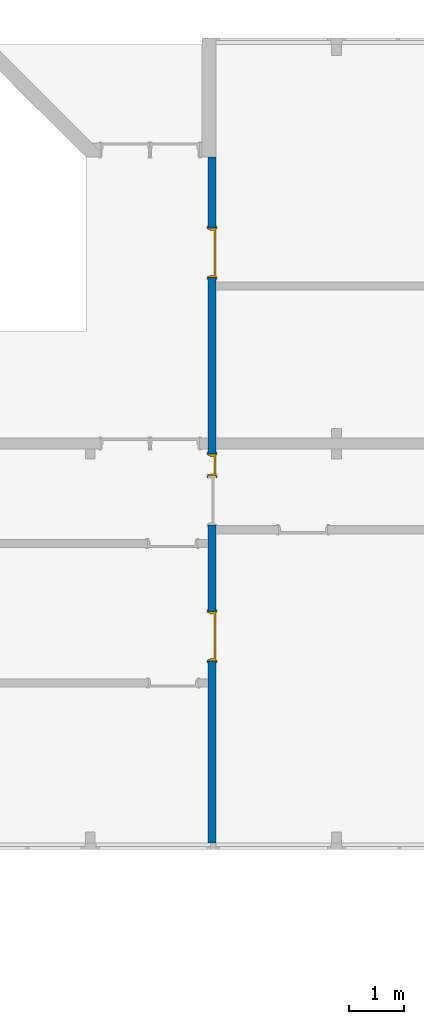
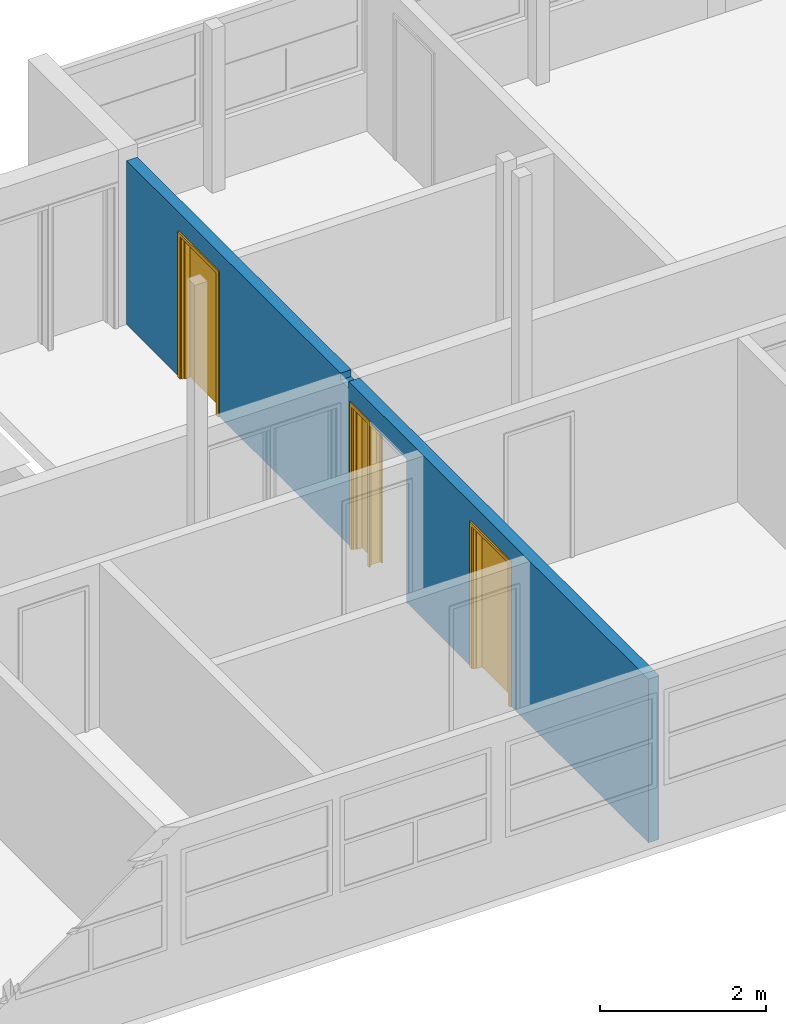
# One storey, part 11 of 48: 3 doors, 1 wall, 4 openings.
"""IFC2X3 building model written with IfcOpenShell, lengths in millimetres."""

import ifcopenshell
import ifcopenshell.guid

model = None  # the IFC model being written
_history = None  # IfcOwnerHistory: only IFC2X3 demands one
_inside = {}  # id of a spatial element -> (the spatial element, [elements in it])
_under = {}  # id of a project, library or spatial element -> (it, [spatial elements below it])
_declared = {}  # id of a project -> (the project, [libraries it declares])
_typed = {}  # id of a type object -> (the type object, [elements of that type])
_made_of = {}  # id of a material, layer set ... -> (it, [elements and type objects made of it])


def new_model(schema):
    """Start an empty IFC model of exactly this schema.

    Asked for "IFC4X3", IfcOpenShell would pick the latest addendum, in which some entities
    have other attributes; the version numbers below select the first issue.
    IFC2X3 requires an IfcOwnerHistory on every rooted entity: one is made here for all.
    """
    global model, _history
    if schema == "IFC4X3":
        model = ifcopenshell.file(schema_version=(4, 3, 0, 0))
    else:
        model = ifcopenshell.file(schema=schema)
    _inside.clear()
    _under.clear()
    _declared.clear()
    _typed.clear()
    _made_of.clear()
    _history = None
    if model.schema == "IFC2X3":
        org = make("IfcOrganization", Name="unknown")
        user = make(
            "IfcPersonAndOrganization",
            ThePerson=make("IfcPerson", FamilyName="unknown"),
            TheOrganization=org,
        )
        app = make(
            "IfcApplication",
            ApplicationDeveloper=org,
            Version="unknown",
            ApplicationFullName="unknown",
            ApplicationIdentifier="unknown",
        )
        _history = make(
            "IfcOwnerHistory",
            OwningUser=user,
            OwningApplication=app,
            ChangeAction="ADDED",
            CreationDate=0,
        )
    return model


def make(cls, **values):
    """One entity of the class cls with the attributes given. An attribute that is None is left unset."""
    return model.create_entity(
        cls, **{name: value for name, value in values.items() if value is not None}
    )


def entity(cls, *values):
    """Any entity or typed value of the class cls, its attributes in the order of the schema. None: left unset."""
    e = model.create_entity(cls)
    for i, value in enumerate(values):
        if value is not None:
            e[i] = value
    return e


def rooted(cls, **values):
    """An entity with a GlobalId (a new one), such as an element, a storey or a relation."""
    return make(cls, GlobalId=ifcopenshell.guid.new(), OwnerHistory=_history, **values)


def si_unit(unit_type, name, prefix=None):
    """IfcSIUnit, for example si_unit("LENGTHUNIT", "METRE", prefix="MILLI")."""
    return make("IfcSIUnit", UnitType=unit_type, Prefix=prefix, Name=name)


def converted_unit(unit_type, name, factor, base, dimensions=None, offset=None):
    """IfcConversionBasedUnit, such as the inch: factor (a typed value) times the base unit."""
    return make(
        "IfcConversionBasedUnit"
        if offset is None
        else "IfcConversionBasedUnitWithOffset",
        ConversionOffset=offset,
        Dimensions=None
        if dimensions is None
        else entity("IfcDimensionalExponents", *dimensions),
        UnitType=unit_type,
        Name=name,
        ConversionFactor=make(
            "IfcMeasureWithUnit", ValueComponent=factor, UnitComponent=base
        ),
    )


def derived_unit(unit_type, elements):
    """IfcDerivedUnit: a product of units, each with its exponent."""
    return make(
        "IfcDerivedUnit",
        Elements=[
            make("IfcDerivedUnitElement", Unit=unit, Exponent=power)
            for unit, power in elements
        ],
        UnitType=unit_type,
    )


def money_unit(currency):
    """IfcMonetaryUnit."""
    return make("IfcMonetaryUnit", Currency=currency)


def assignment(units):
    """IfcUnitAssignment: the units of a project."""
    return None if units is None else make("IfcUnitAssignment", Units=units)


def point(xyz):
    """IfcCartesianPoint."""
    return None if xyz is None else make("IfcCartesianPoint", Coordinates=xyz)


def direction(xyz):
    """IfcDirection."""
    return None if xyz is None else make("IfcDirection", DirectionRatios=xyz)


def frame(location, z_axis=None, x_axis=None):
    """IfcAxis2Placement3D, a coordinate frame: its origin and axes. An axis left out is left unset."""
    return make(
        "IfcAxis2Placement3D",
        Location=point(location),
        Axis=direction(z_axis),
        RefDirection=direction(x_axis),
    )


def origin_with_axes():
    """The frame at (0, 0, 0) with the z axis (0, 0, 1) and the x axis (1, 0, 0) written out."""
    return frame((0.0, 0.0, 0.0), z_axis=(0.0, 0.0, 1.0), x_axis=(1.0, 0.0, 0.0))


def place(relative_to, where):
    """IfcLocalPlacement: puts the frame where relative to a parent placement (None: the world)."""
    return make(
        "IfcLocalPlacement", PlacementRelTo=relative_to, RelativePlacement=where
    )


def context(
    kind, dimensions, precision=None, world=None, true_north=None, identifier=None
):
    """IfcGeometricRepresentationContext, for example the 3D "Model" context."""
    return make(
        "IfcGeometricRepresentationContext",
        ContextIdentifier=identifier,
        ContextType=kind,
        CoordinateSpaceDimension=dimensions,
        Precision=precision,
        WorldCoordinateSystem=world,
        TrueNorth=true_north,
    )


def subcontext(parent, identifier, kind, view, scale=None):
    """IfcGeometricRepresentationSubContext, for example "Body" below "Model"."""
    return make(
        "IfcGeometricRepresentationSubContext",
        ContextIdentifier=identifier,
        ContextType=kind,
        ParentContext=parent,
        TargetScale=scale,
        TargetView=view,
    )


def project(units=None, contexts=None):
    """IfcProject with its units and contexts."""
    return rooted(
        "IfcProject",
        Name="project",
        RepresentationContexts=contexts,
        UnitsInContext=assignment(units),
    )


def spatial(cls, under=None, at=None, **own):
    """A site, building, storey or space (cls), placed at a placement, below another one or the project."""
    s = rooted(cls, ObjectPlacement=at, **own)
    if under is not None:
        _under.setdefault(under.id(), (under, []))[1].append(s)
    return s


def faces_of(points, faces, orient=None, outer=None):
    """IfcFace entities. A face is a list of loops; a loop is a list of indices into points, from 0.

    orient and outer hold one flag for each loop. By default every Orientation is true, the
    first loop of a face is its IfcFaceOuterBound and the others are IfcFaceBound.
    """
    made = []
    for i, loops in enumerate(faces):
        bounds = []
        for j, loop in enumerate(loops):
            is_outer = j == 0 if outer is None else outer[i][j]
            bounds.append(
                make(
                    "IfcFaceOuterBound" if is_outer else "IfcFaceBound",
                    Bound=make("IfcPolyLoop", Polygon=[points[k] for k in loop]),
                    Orientation=True if orient is None else orient[i][j],
                )
            )
        made.append(make("IfcFace", Bounds=bounds))
    return made


def faceted_brep(points, faces, orient=None, outer=None, voids=None):
    """IfcFacetedBrep: a solid bounded by flat faces; with voids (closed shells), ...WithVoids."""
    shared = [point(p) for p in points]
    hull = make("IfcClosedShell", CfsFaces=faces_of(shared, faces, orient, outer))
    if voids is None:
        return make("IfcFacetedBrep", Outer=hull)
    return make(
        "IfcFacetedBrepWithVoids",
        Outer=hull,
        Voids=[
            make(cls, CfsFaces=faces_of(shared, fs, o, b)) for cls, fs, o, b in voids
        ],
    )


def shape(context_of_items, identifier, shape_type, items):
    """IfcShapeRepresentation: the items that make up one representation, for example the "Body"."""
    return make(
        "IfcShapeRepresentation",
        ContextOfItems=context_of_items,
        RepresentationIdentifier=identifier,
        RepresentationType=shape_type,
        Items=items,
    )


def source(mapping_origin, context_of_items, identifier, shape_type, items):
    """IfcRepresentationMap: a shape defined once, which mapped items show again and again."""
    return make(
        "IfcRepresentationMap",
        MappingOrigin=mapping_origin,
        MappedRepresentation=shape(context_of_items, identifier, shape_type, items),
    )


def transform(
    local_origin,
    x_axis=None,
    y_axis=None,
    z_axis=None,
    scale=None,
    scale2=None,
    scale3=None,
    uniform=True,
):
    """IfcCartesianTransformationOperator3D, or its non-uniform kind. x_axis, y_axis, z_axis: its Axis1, 2, 3."""
    if uniform:
        return make(
            "IfcCartesianTransformationOperator3D",
            Axis1=direction(x_axis),
            Axis2=direction(y_axis),
            LocalOrigin=point(local_origin),
            Scale=scale,
            Axis3=direction(z_axis),
        )
    return make(
        "IfcCartesianTransformationOperator3DnonUniform",
        Axis1=direction(x_axis),
        Axis2=direction(y_axis),
        LocalOrigin=point(local_origin),
        Scale=scale,
        Axis3=direction(z_axis),
        Scale2=scale2,
        Scale3=scale3,
    )


def mapped(mapping_source, mapping_target):
    """IfcMappedItem: shows the shape of a source again, moved by a transform."""
    return make(
        "IfcMappedItem", MappingSource=mapping_source, MappingTarget=mapping_target
    )


def material(Name=None, Category=None):
    """IfcMaterial."""
    return make("IfcMaterial", Name=Name, Category=Category)


def made_of(thing, what):
    """Note that an element or type object is made of a material, layer set ...; save() writes the relation."""
    if what is not None:
        _made_of.setdefault(what.id(), (what, []))[1].append(thing)
    return thing


def type_object(cls, material=None, **own):
    """A type object (cls), such as IfcWallType, which elements share."""
    return made_of(rooted(cls, **own), material)


def element(
    cls,
    number,
    at=None,
    inside=None,
    cuts=None,
    type_object=None,
    material=None,
    context=None,
    identifier="Body",
    shape_type=None,
    held_by="IfcProductDefinitionShape",
    body=None,
    shapes=None,
    **own,
):
    """One element of the class cls, such as IfcWall. Its Tag is "e" and its number.

    at: its placement. inside: the storey or other place that contains it. cuts: it is an
    opening in that element (IfcRelVoidsElement). A single representation is given by context,
    identifier, shape_type and body (its items); several are given by shapes. held_by: the class
    of the entity that holds the representations. save() writes the other relations.
    """
    e = rooted(cls, Tag="e%d" % number, ObjectPlacement=at, **own)
    if body is not None:
        shapes = [shape(context, identifier, shape_type, body)]
    if shapes is not None:
        e.Representation = make(held_by, Representations=shapes)
    if inside is not None:
        _inside.setdefault(inside.id(), (inside, []))[1].append(e)
    if cuts is not None:
        rooted(
            "IfcRelVoidsElement", RelatingBuildingElement=cuts, RelatedOpeningElement=e
        )
    if type_object is not None:
        _typed.setdefault(type_object.id(), (type_object, []))[1].append(e)
    return made_of(e, material)


def fill(opening, filler):
    """IfcRelFillsElement: the door or window that sits in an opening."""
    return rooted(
        "IfcRelFillsElement",
        RelatingOpeningElement=opening,
        RelatedBuildingElement=filler,
    )


def aggregate(whole, parts):
    """IfcRelAggregates: a whole, such as a stair, and the parts it consists of."""
    return rooted("IfcRelAggregates", RelatingObject=whole, RelatedObjects=parts)


def save(model, path):
    """Write the relations noted so far, then the file.

    IfcRelAggregates (storeys below a building ...), IfcRelContainedInSpatialStructure (elements
    in a storey), IfcRelDefinesByType, IfcRelAssociatesMaterial and IfcRelDeclares: one each for
    every whole, place, type object, material and project.
    """
    for whole, parts in _under.values():
        aggregate(whole, parts)
    for where, things in _inside.values():
        rooted(
            "IfcRelContainedInSpatialStructure",
            RelatedElements=things,
            RelatingStructure=where,
        )
    for kind, things in _typed.values():
        rooted("IfcRelDefinesByType", RelatedObjects=things, RelatingType=kind)
    for what, things in _made_of.values():
        rooted("IfcRelAssociatesMaterial", RelatedObjects=things, RelatingMaterial=what)
    for by, libraries in _declared.values():
        rooted("IfcRelDeclares", RelatingContext=by, RelatedDefinitions=libraries)
    model.write(path)


model = new_model("IFC2X3")

# Units and contexts
model_context = context("Model", 3, precision=0.01, world=origin_with_axes(), true_north=direction((0.0, 1.0)))
body_context = subcontext(model_context, "Body", "Model", "MODEL_VIEW")
ifc_project = project(units=[si_unit("LENGTHUNIT", "METRE", prefix="MILLI"), si_unit("AREAUNIT", "SQUARE_METRE"), si_unit("VOLUMEUNIT", "CUBIC_METRE"), converted_unit("PLANEANGLEUNIT", "DEGREE", entity("IfcPlaneAngleMeasure", 0.0174532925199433), si_unit("PLANEANGLEUNIT", "RADIAN"), dimensions=[0, 0, 0, 0, 0, 0, 0]), money_unit("USD"), converted_unit("TIMEUNIT", "Year", entity("IfcTimeMeasure", 31557600.0), si_unit("TIMEUNIT", "SECOND"), dimensions=[0, 0, 1, 0, 0, 0, 0]), si_unit("MASSUNIT", "GRAM", prefix="KILO"), si_unit("THERMODYNAMICTEMPERATUREUNIT", "DEGREE_CELSIUS"), si_unit("LUMINOUSINTENSITYUNIT", "LUMEN"), si_unit("ENERGYUNIT", "JOULE", prefix="MEGA"), derived_unit("THERMALCONDUCTANCEUNIT", [(si_unit("POWERUNIT", "WATT"), 1), (si_unit("LENGTHUNIT", "METRE"), -1), (si_unit("THERMODYNAMICTEMPERATUREUNIT", "KELVIN"), -1)]), derived_unit("SPECIFICHEATCAPACITYUNIT", [(si_unit("ENERGYUNIT", "JOULE"), 1), (si_unit("MASSUNIT", "GRAM", prefix="KILO"), -1), (si_unit("THERMODYNAMICTEMPERATUREUNIT", "KELVIN"), -1)]), derived_unit("MASSDENSITYUNIT", [(si_unit("MASSUNIT", "GRAM", prefix="KILO"), 1), (si_unit("VOLUMEUNIT", "CUBIC_METRE"), -1)])], contexts=[model_context])

# Site, building, storey
site_placement = place(None, origin_with_axes())
site = spatial("IfcSite", under=ifc_project, at=site_placement, Name="Site", CompositionType="ELEMENT")
building_placement = place(site_placement, origin_with_axes())
building = spatial("IfcBuilding", under=site, at=building_placement, Name="Building", CompositionType="ELEMENT")
storey_placement = place(building_placement, frame((0.0, 0.0, 3300.0), z_axis=(0.0, 0.0, 1.0), x_axis=(1.0, 0.0, 0.0)))
storey = spatial("IfcBuildingStorey", under=building, at=storey_placement, Name="1 ETG", CompositionType="ELEMENT", Elevation=3300.0)

# Wall, openings, doors
ifc_material = material(Name="GENERIC - INTERNAL FILLER")
wall_type = type_object("IfcWallType", Name="GENERIC - INTERNAL FILLER 150", PredefinedType="NOTDEFINED")
wall_placement = place(storey_placement, frame((24800.2662126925, 19738.63460103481, 0.0), z_axis=(0.0, 0.0, 1.0), x_axis=(0.0, -1.0, 0.0)))
wall = element("IfcWall", 1, at=wall_placement, inside=storey, type_object=wall_type, material=ifc_material, Name="SW - 001", context=body_context, shape_type="Brep", body=[
    faceted_brep([(6730.403722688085, 0.0, 0.0), (6730.403722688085, 0.0, 2100.0), (5830.403722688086, 0.0, 2100.0), (5430.403722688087, 0.0, 2100.0), (5430.403722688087, 0.0, 0.0), (2199.999999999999, 0.0, 0.0), (2199.999999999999, 0.0, 2100.0), (1300.000000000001, 0.0, 2100.0), (1300.000000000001, 0.0, 0.0), (0.0, 0.0, 0.0), (0.0, 0.0, 2400.0), (5138.634601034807, 0.0, 2400.0), (5138.634601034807, 0.0, 2300.000000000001), (5338.634601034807, 0.0, 2300.000000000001), (5338.634601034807, 0.0, 2400.0), (12538.84401001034, 0.0, 2400.0), (12538.84401001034, 0.0, 0.0), (9210.496496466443, 0.0, 0.0), (9210.496496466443, 0.0, 2100.0), (8310.496496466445, 0.0, 2100.0), (8310.496496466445, 0.0, 0.0), (6730.403722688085, -150.0000000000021, 0.0), (6730.403722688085, -149.9999999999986, 2100.0), (5830.403722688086, -149.9999999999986, 2100.0), (5430.403722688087, -149.9999999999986, 2100.0), (5430.403722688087, -150.0000000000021, 0.0), (2199.999999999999, -149.9999999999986, 0.0), (2199.999999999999, -149.9999999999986, 2100.0), (1300.000000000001, -149.9999999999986, 2100.0), (1300.000000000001, -149.9999999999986, 0.0), (0.0, -149.9999999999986, 0.0), (0.0, -149.9999999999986, 2400.0), (5138.634601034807, -149.9999999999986, 2400.0), (5138.634601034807, -149.9999999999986, 2300.000000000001), (5338.634601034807, -149.9999999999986, 2300.000000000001), (5338.634601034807, -149.9999999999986, 2400.0), (12538.84427531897, -150.0000000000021, 2400.0), (12538.84427531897, -150.0000000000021, 0.0), (9210.496496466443, -150.0000000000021, 0.0), (9210.496496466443, -149.9999999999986, 2100.0), (8310.496496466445, -149.9999999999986, 2100.0), (8310.496496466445, -150.0000000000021, 0.0)], [[[0, 1, 2, 3, 4, 5, 6, 7, 8, 9, 10, 11, 12, 13, 14, 15, 16, 17, 18, 19, 20]], [[1, 0, 21, 22]], [[2, 1, 22, 23, 24, 3]], [[3, 24, 25, 4]], [[25, 26, 5, 4]], [[26, 27, 6, 5]], [[27, 28, 7, 6]], [[28, 29, 8, 7]], [[30, 9, 8, 29]], [[9, 30, 31, 10]], [[31, 32, 11, 10]], [[33, 12, 11, 32]], [[34, 13, 12, 33]], [[34, 35, 14, 13]], [[15, 14, 35, 36]], [[16, 15, 36, 37]], [[37, 38, 17, 16]], [[39, 18, 17, 38]], [[40, 19, 18, 39]], [[41, 20, 19, 40]], [[21, 0, 20, 41]], [[22, 21, 41, 40, 39, 38, 37, 36, 35, 34, 33, 32, 31, 30, 29, 28, 27, 26, 25, 24, 23]]]),
])
opening_1_placement = place(wall_placement, frame((8760.496496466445, 0.0, 0.0), z_axis=(0.0, 0.0, 1.0), x_axis=(1.0, 0.0, 0.0)))
opening_1 = element("IfcOpeningElement", 2, at=opening_1_placement, cuts=wall, Name="DOO - 002", context=body_context, shape_type="Brep", body=[
    faceted_brep([(-449.9999999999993, 1.000000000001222, 0.0), (-449.9999999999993, 1.000000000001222, 2100.0), (449.9999999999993, 1.000000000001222, 2100.0), (449.9999999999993, 1.000000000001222, 0.0), (-487.0000000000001, 1.000000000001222, 0.0), (-487.0000000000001, 1.000000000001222, 2137.0), (487.0000000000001, 1.000000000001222, 2137.0), (487.0000000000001, 1.000000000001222, 0.0), (-449.9999999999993, 0.0, 0.0), (449.9999999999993, 0.0, 0.0), (449.9999999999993, -149.9999999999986, 0.0), (449.9999999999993, -150.9999999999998, 0.0), (-449.9999999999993, -150.9999999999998, 0.0), (-449.9999999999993, -149.9999999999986, 0.0), (-487.0000000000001, 0.0, 0.0), (-487.0000000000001, 0.0, 2137.0), (487.0000000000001, 0.0, 2137.0), (487.0000000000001, 0.0, 0.0), (449.9999999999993, 0.0, 2100.0), (449.9999999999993, -149.9999999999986, 2100.0), (487.0000000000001, -149.9999999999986, 0.0), (487.0000000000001, -150.9999999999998, 0.0), (487.0000000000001, -150.9999999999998, 2137.0), (-487.0000000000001, -150.9999999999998, 2137.0), (-487.0000000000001, -150.9999999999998, 0.0), (-487.0000000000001, -149.9999999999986, 0.0), (-449.9999999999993, 0.0, 2100.0), (-449.9999999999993, -149.9999999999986, 2100.0), (-487.0000000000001, -149.9999999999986, 2137.0), (487.0000000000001, -149.9999999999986, 2137.0)], [[[0, 1, 2, 3]], [[2, 1, 0, 4, 5, 6, 7, 3]], [[8, 0, 3, 9, 10, 11, 12, 13]], [[0, 8, 14, 4]], [[14, 15, 5, 4]], [[15, 16, 6, 5]], [[16, 17, 7, 6]], [[9, 3, 7, 17]], [[9, 18, 19, 10]], [[11, 10, 20, 21]], [[12, 11, 21, 22, 23, 24]], [[13, 12, 24, 25]], [[26, 8, 13, 27]], [[8, 26, 18, 9, 17, 16, 15, 14]], [[18, 26, 27, 19]], [[19, 27, 13, 25, 28, 29, 20, 10]], [[20, 29, 22, 21]], [[29, 28, 23, 22]], [[28, 25, 24, 23]]]),
])
opening_2_placement = place(wall_placement, frame((1750.0, 0.0, 0.0), z_axis=(0.0, 0.0, 1.0), x_axis=(1.0, 0.0, 0.0)))
opening_2 = element("IfcOpeningElement", 3, at=opening_2_placement, cuts=wall, Name="DOO - 002", context=body_context, shape_type="Brep", body=[
    faceted_brep([(-449.9999999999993, 1.000000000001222, 0.0), (-449.9999999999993, 1.000000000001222, 2100.0), (449.9999999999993, 1.000000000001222, 2100.0), (449.9999999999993, 1.000000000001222, 0.0), (-486.9999999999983, 1.000000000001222, 0.0), (-486.9999999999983, 1.000000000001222, 2137.0), (486.9999999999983, 1.000000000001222, 2137.0), (486.9999999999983, 1.000000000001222, 0.0), (-449.9999999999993, 0.0, 0.0), (449.9999999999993, 0.0, 0.0), (449.9999999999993, -149.9999999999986, 0.0), (449.9999999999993, -150.9999999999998, 0.0), (-449.9999999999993, -150.9999999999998, 0.0), (-449.9999999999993, -149.9999999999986, 0.0), (-486.9999999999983, 0.0, 0.0), (-486.9999999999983, 0.0, 2137.0), (486.9999999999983, 0.0, 2137.0), (486.9999999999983, 0.0, 0.0), (449.9999999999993, 0.0, 2100.0), (449.9999999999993, -149.9999999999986, 2100.0), (486.9999999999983, -149.9999999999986, 0.0), (486.9999999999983, -150.9999999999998, 0.0), (486.9999999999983, -150.9999999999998, 2137.0), (-486.9999999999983, -150.9999999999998, 2137.0), (-486.9999999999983, -150.9999999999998, 0.0), (-486.9999999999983, -149.9999999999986, 0.0), (-449.9999999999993, 0.0, 2100.0), (-449.9999999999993, -149.9999999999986, 2100.0), (-486.9999999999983, -149.9999999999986, 2137.0), (486.9999999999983, -149.9999999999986, 2137.0)], [[[0, 1, 2, 3]], [[2, 1, 0, 4, 5, 6, 7, 3]], [[8, 0, 3, 9, 10, 11, 12, 13]], [[0, 8, 14, 4]], [[14, 15, 5, 4]], [[15, 16, 6, 5]], [[16, 17, 7, 6]], [[9, 3, 7, 17]], [[9, 18, 19, 10]], [[11, 10, 20, 21]], [[12, 11, 21, 22, 23, 24]], [[13, 12, 24, 25]], [[26, 8, 13, 27]], [[8, 26, 18, 9, 17, 16, 15, 14]], [[18, 26, 27, 19]], [[19, 27, 13, 25, 28, 29, 20, 10]], [[20, 29, 22, 21]], [[29, 28, 23, 22]], [[28, 25, 24, 23]]]),
])
opening_3_placement = place(wall_placement, frame((5630.403722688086, 0.0, 0.0), z_axis=(0.0, 0.0, 1.0), x_axis=(1.0, 0.0, 0.0)))
opening_3 = element("IfcOpeningElement", 4, at=opening_3_placement, cuts=wall, Name="DOO - 002", context=body_context, shape_type="Brep", body=[
    faceted_brep([(-199.9999999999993, 1.000000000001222, 0.0), (-199.9999999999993, 1.000000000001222, 2100.0), (199.9999999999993, 1.000000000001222, 2100.0), (199.9999999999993, 1.000000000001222, 0.0), (-236.9999999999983, 1.000000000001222, 0.0), (-236.9999999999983, 1.000000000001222, 2137.0), (236.9999999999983, 1.000000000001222, 2137.0), (236.9999999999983, 1.000000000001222, 0.0), (-199.9999999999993, 0.0, 0.0), (199.9999999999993, 0.0, 0.0), (199.9999999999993, -149.9999999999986, 0.0), (199.9999999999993, -150.9999999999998, 0.0), (-199.9999999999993, -150.9999999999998, 0.0), (-199.9999999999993, -149.9999999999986, 0.0), (-236.9999999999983, 0.0, 0.0), (-236.9999999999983, 0.0, 2137.0), (236.9999999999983, 0.0, 2137.0), (236.9999999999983, 0.0, 0.0), (199.9999999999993, 0.0, 2100.0), (199.9999999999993, -149.9999999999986, 2100.0), (236.9999999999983, -149.9999999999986, 0.0), (236.9999999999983, -150.9999999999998, 0.0), (236.9999999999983, -150.9999999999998, 2137.0), (-236.9999999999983, -150.9999999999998, 2137.0), (-236.9999999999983, -150.9999999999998, 0.0), (-236.9999999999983, -149.9999999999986, 0.0), (-199.9999999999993, 0.0, 2100.0), (-199.9999999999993, -149.9999999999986, 2100.0), (-236.9999999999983, -149.9999999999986, 2137.0), (236.9999999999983, -149.9999999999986, 2137.0)], [[[0, 1, 2, 3]], [[2, 1, 0, 4, 5, 6, 7, 3]], [[8, 0, 3, 9, 10, 11, 12, 13]], [[0, 8, 14, 4]], [[14, 15, 5, 4]], [[15, 16, 6, 5]], [[16, 17, 7, 6]], [[9, 3, 7, 17]], [[9, 18, 19, 10]], [[11, 10, 20, 21]], [[12, 11, 21, 22, 23, 24]], [[13, 12, 24, 25]], [[26, 8, 13, 27]], [[8, 26, 18, 9, 17, 16, 15, 14]], [[18, 26, 27, 19]], [[19, 27, 13, 25, 28, 29, 20, 10]], [[20, 29, 22, 21]], [[29, 28, 23, 22]], [[28, 25, 24, 23]]]),
])
opening_4_placement = place(wall_placement, frame((6280.403722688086, 0.0, 0.0), z_axis=(0.0, 0.0, 1.0), x_axis=(1.0, 0.0, 0.0)))
element("IfcOpeningElement", 5, at=opening_4_placement, cuts=wall, Name="DOO - 002", context=body_context, shape_type="Brep", body=[
    faceted_brep([(-449.9999999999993, -149.9999999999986, 0.0), (-449.9999999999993, -149.9999999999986, 2100.0), (-449.9999999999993, 0.0, 2100.0), (-449.9999999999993, 0.0, 0.0), (449.9999999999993, -149.9999999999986, 2100.0), (-487.0000000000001, -149.9999999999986, 0.0), (-487.0000000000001, -149.9999999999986, 2137.0), (487.0000000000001, -149.9999999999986, 2137.0), (487.0000000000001, -149.9999999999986, 0.0), (449.9999999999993, -149.9999999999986, 0.0), (449.9999999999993, 0.0, 2100.0), (449.9999999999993, 0.0, 0.0), (487.0000000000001, 0.0, 0.0), (487.0000000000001, 0.0, 2137.0), (-487.0000000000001, 0.0, 2137.0), (-487.0000000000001, 0.0, 0.0), (-449.9999999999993, -150.9999999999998, 0.0), (-449.9999999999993, 1.000000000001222, 0.0), (449.9999999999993, 1.000000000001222, 0.0), (449.9999999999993, -150.9999999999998, 0.0), (-487.0000000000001, -150.9999999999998, 0.0), (-487.0000000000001, -150.9999999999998, 2137.0), (487.0000000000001, -150.9999999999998, 2137.0), (487.0000000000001, -150.9999999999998, 0.0), (487.0000000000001, 1.000000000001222, 0.0), (487.0000000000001, 1.000000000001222, 2137.0), (-487.0000000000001, 1.000000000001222, 2137.0), (-487.0000000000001, 1.000000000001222, 0.0), (-449.9999999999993, -150.9999999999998, 2100.0), (449.9999999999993, -150.9999999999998, 2100.0)], [[[0, 1, 2, 3]], [[4, 1, 0, 5, 6, 7, 8, 9]], [[1, 4, 10, 2]], [[3, 2, 10, 11, 12, 13, 14, 15]], [[16, 0, 3, 17, 18, 11, 9, 19]], [[0, 16, 20, 5]], [[6, 5, 20, 21]], [[7, 6, 21, 22]], [[8, 7, 22, 23]], [[19, 9, 8, 23]], [[4, 9, 11, 10]], [[11, 18, 24, 12]], [[13, 12, 24, 25]], [[14, 13, 25, 26]], [[15, 14, 26, 27]], [[17, 3, 15, 27]], [[17, 27, 26, 25, 24, 18]], [[28, 16, 19, 29]], [[16, 28, 29, 19, 23, 22, 21, 20]]]),
])
door_style_1 = type_object("IfcDoorStyle", Name="Dør", ConstructionType="NOTDEFINED", OperationType="SINGLE_SWING_RIGHT", ParameterTakesPrecedence=False, Sizeable=False)
shared_shape_1 = source(origin_with_axes(), body_context, "Body", "Brep", [
    faceted_brep([(-450.0, -115.0, 0.0), (-425.0, -115.0, 0.0), (-425.0, -150.0, 0.0), (-450.0, -150.0, 0.0), (-450.0, -115.0000000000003, 2100.0), (-425.0, -115.0000000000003, 2075.0), (-425.0, -150.0000000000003, 2075.0), (-450.0, -150.0000000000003, 2100.0)], [[[0, 1, 2, 3]], [[0, 4, 5, 1]], [[1, 5, 6, 2]], [[3, 2, 6, 7]], [[4, 0, 3, 7]], [[5, 4, 7, 6]]]),
    faceted_brep([(450.0, -115.0000000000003, 2100.0), (425.0, -115.0000000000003, 2075.0), (425.0, -150.0000000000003, 2075.0), (450.0, -150.0000000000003, 2100.0), (450.0, -115.0, 0.0), (425.0, -115.0, 0.0), (425.0, -150.0, 0.0), (450.0, -150.0, 0.0)], [[[0, 1, 2, 3]], [[0, 4, 5, 1]], [[1, 5, 6, 2]], [[3, 2, 6, 7]], [[4, 0, 3, 7]], [[5, 4, 7, 6]]]),
    faceted_brep([(-425.0, -115.0000000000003, 2075.0), (425.0, -115.0000000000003, 2075.0), (425.0, -150.0000000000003, 2075.0), (-425.0, -150.0000000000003, 2075.0), (-450.0, -115.0000000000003, 2100.0), (450.0, -115.0000000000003, 2100.0), (450.0, -150.0000000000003, 2100.0), (-450.0, -150.0000000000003, 2100.0)], [[[0, 1, 2, 3]], [[0, 4, 5, 1]], [[1, 5, 6, 2]], [[3, 2, 6, 7]], [[4, 0, 3, 7]], [[5, 4, 7, 6]]]),
    faceted_brep([(-487.0, -169.0, 0.0), (-487.0, -150.0, 0.0), (-437.0, -150.0, 0.0), (-437.0, -169.0, 0.0), (-487.0, -169.0000000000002, 2137.0), (-487.0, -150.0000000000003, 2137.0), (-437.0, -150.0000000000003, 2087.0), (-437.0, -169.0000000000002, 2087.0)], [[[0, 1, 2, 3]], [[4, 5, 1, 0]], [[1, 5, 6, 2]], [[3, 2, 6, 7]], [[0, 3, 7, 4]], [[7, 6, 5, 4]]]),
    faceted_brep([(487.0, -169.0000000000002, 2137.0), (487.0, -150.0000000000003, 2137.0), (437.0, -150.0000000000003, 2087.0), (437.0, -169.0000000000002, 2087.0), (487.0, -169.0, 0.0), (487.0, -150.0, 0.0), (437.0, -150.0, 0.0), (437.0, -169.0, 0.0)], [[[0, 1, 2, 3]], [[4, 5, 1, 0]], [[1, 5, 6, 2]], [[3, 2, 6, 7]], [[0, 3, 7, 4]], [[7, 6, 5, 4]]]),
    faceted_brep([(-487.0, -169.0000000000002, 2137.0), (-487.0, -150.0000000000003, 2137.0), (-437.0, -150.0000000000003, 2087.0), (-437.0, -169.0000000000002, 2087.0), (487.0, -169.0000000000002, 2137.0), (487.0, -150.0000000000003, 2137.0), (437.0, -150.0000000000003, 2087.0), (437.0, -169.0000000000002, 2087.0)], [[[0, 1, 2, 3]], [[4, 5, 1, 0]], [[1, 5, 6, 2]], [[3, 2, 6, 7]], [[0, 3, 7, 4]], [[7, 6, 5, 4]]]),
    faceted_brep([(-487.0, 19.0, 0.0), (-437.0, 19.0, 0.0), (-437.0, 0.0, 0.0), (-487.0, 0.0, 0.0), (-487.0, 18.99999999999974, 2137.0), (-437.0, 18.99999999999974, 2087.0), (-437.0, 0.0, 2087.0), (-487.0, 0.0, 2137.0)], [[[0, 1, 2, 3]], [[0, 4, 5, 1]], [[1, 5, 6, 2]], [[3, 2, 6, 7]], [[4, 0, 3, 7]], [[5, 4, 7, 6]]]),
    faceted_brep([(487.0, 18.99999999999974, 2137.0), (437.0, 18.99999999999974, 2087.0), (437.0, 0.0, 2087.0), (487.0, 0.0, 2137.0), (487.0, 19.0, 0.0), (437.0, 19.0, 0.0), (437.0, 0.0, 0.0), (487.0, 0.0, 0.0)], [[[0, 1, 2, 3]], [[0, 4, 5, 1]], [[1, 5, 6, 2]], [[3, 2, 6, 7]], [[4, 0, 3, 7]], [[5, 4, 7, 6]]]),
    faceted_brep([(-487.0, 18.99999999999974, 2137.0), (-437.0, 18.99999999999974, 2087.0), (-437.0, 0.0, 2087.0), (-487.0, 0.0, 2137.0), (487.0, 18.99999999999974, 2137.0), (437.0, 18.99999999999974, 2087.0), (437.0, 0.0, 2087.0), (487.0, 0.0, 2137.0)], [[[0, 1, 2, 3]], [[0, 4, 5, 1]], [[1, 5, 6, 2]], [[3, 2, 6, 7]], [[4, 0, 3, 7]], [[5, 4, 7, 6]]]),
    faceted_brep([(-450.0, 0.0, 0.0), (-410.0000000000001, 0.0, 0.0), (-410.0000000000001, -115.0, 0.0), (-450.0, -115.0, 0.0), (-450.0, 0.0, 2060.0), (-410.0000000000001, 0.0, 2060.0), (-410.0000000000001, -115.0, 2060.0), (-450.0, -115.0, 2060.0)], [[[0, 1, 2, 3]], [[0, 4, 5, 1]], [[1, 5, 6, 2]], [[3, 2, 6, 7]], [[4, 0, 3, 7]], [[5, 4, 7, 6]]]),
    faceted_brep([(450.0, 0.0, 0.0), (450.0, 0.0, 2060.0), (450.0, -115.0, 2060.0), (450.0, -115.0, 0.0), (410.0000000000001, 0.0, 0.0), (410.0000000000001, 0.0, 2060.0), (410.0000000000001, -115.0, 2060.0), (410.0000000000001, -115.0, 0.0)], [[[0, 1, 2, 3]], [[0, 4, 5, 1]], [[1, 5, 6, 2]], [[3, 2, 6, 7]], [[4, 0, 3, 7]], [[5, 4, 7, 6]]]),
    faceted_brep([(-450.0, 0.0, 2100.0), (-450.0, 0.0, 2060.0), (-450.0, -115.0, 2060.0), (-450.0, -115.0, 2100.0), (450.0, 0.0, 2100.0), (450.0, 0.0, 2060.0), (410.0000000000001, 0.0, 2060.0), (-410.0000000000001, 0.0, 2060.0), (-410.0000000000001, -115.0, 2060.0), (410.0000000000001, -115.0, 2060.0), (450.0, -115.0, 2060.0), (450.0, -115.0, 2100.0)], [[[0, 1, 2, 3]], [[0, 4, 5, 6, 7, 1]], [[1, 7, 8, 2]], [[3, 2, 8, 9, 10, 11]], [[4, 0, 3, 11]], [[5, 4, 11, 10]], [[6, 5, 10, 9]], [[7, 6, 9, 8]]]),
    faceted_brep([(409.9999999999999, 0.0, 0.0), (409.9999999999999, -40.0, 0.0), (-410.0000000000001, -40.0, 0.0), (-410.0000000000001, 0.0, 0.0), (409.9999999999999, 0.0, 2060.0), (409.9999999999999, -40.00000000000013, 2060.0), (-410.0000000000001, -40.00000000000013, 2060.0), (-410.0000000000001, 0.0, 2060.0)], [[[0, 1, 2, 3]], [[4, 5, 1, 0]], [[1, 5, 6, 2]], [[3, 2, 6, 7]], [[0, 3, 7, 4]], [[7, 6, 5, 4]]]),
])
door_1_placement = place(opening_2_placement, frame((-449.9999999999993, 0.0, 0.0), z_axis=(0.0, 0.0, 1.0), x_axis=(1.0, 0.0, 0.0)))
door_1 = element("IfcDoor", 6, at=door_1_placement, inside=storey, type_object=door_style_1, Name="DOO - 002", ObjectType="DOOR", OverallHeight=2100.0, OverallWidth=900.0, context=body_context, shape_type="MappedRepresentation", body=[
    mapped(shared_shape_1, transform((449.9999999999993, 0.0, 0.0))),
])
fill(opening_2, door_1)
door_style_2 = type_object("IfcDoorStyle", Name="Dør", ConstructionType="NOTDEFINED", OperationType="SINGLE_SWING_LEFT", ParameterTakesPrecedence=False, Sizeable=False)
shared_shape_2 = source(origin_with_axes(), body_context, "Body", "Brep", [
    faceted_brep([(450.0, -115.0, 0.0), (450.0, -150.0, 0.0), (425.0, -150.0, 0.0), (425.0, -115.0, 0.0), (450.0, -115.0000000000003, 2100.0), (450.0, -150.0000000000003, 2100.0), (425.0, -150.0000000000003, 2075.0), (425.0, -115.0000000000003, 2075.0)], [[[0, 1, 2, 3]], [[4, 5, 1, 0]], [[1, 5, 6, 2]], [[3, 2, 6, 7]], [[0, 3, 7, 4]], [[7, 6, 5, 4]]]),
    faceted_brep([(-450.0, -115.0000000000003, 2100.0), (-450.0, -150.0000000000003, 2100.0), (-425.0, -150.0000000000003, 2075.0), (-425.0, -115.0000000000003, 2075.0), (-450.0, -115.0, 0.0), (-450.0, -150.0, 0.0), (-425.0, -150.0, 0.0), (-425.0, -115.0, 0.0)], [[[0, 1, 2, 3]], [[4, 5, 1, 0]], [[1, 5, 6, 2]], [[3, 2, 6, 7]], [[0, 3, 7, 4]], [[7, 6, 5, 4]]]),
    faceted_brep([(425.0, -115.0000000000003, 2075.0), (425.0, -150.0000000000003, 2075.0), (-425.0, -150.0000000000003, 2075.0), (-425.0, -115.0000000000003, 2075.0), (450.0, -115.0000000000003, 2100.0), (450.0, -150.0000000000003, 2100.0), (-450.0, -150.0000000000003, 2100.0), (-450.0, -115.0000000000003, 2100.0)], [[[0, 1, 2, 3]], [[4, 5, 1, 0]], [[1, 5, 6, 2]], [[3, 2, 6, 7]], [[0, 3, 7, 4]], [[7, 6, 5, 4]]]),
    faceted_brep([(487.0, -169.0, 0.0), (437.0, -169.0, 0.0), (437.0, -150.0, 0.0), (487.0, -150.0, 0.0), (487.0, -169.0000000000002, 2137.0), (437.0, -169.0000000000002, 2087.0), (437.0, -150.0000000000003, 2087.0), (487.0, -150.0000000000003, 2137.0)], [[[0, 1, 2, 3]], [[0, 4, 5, 1]], [[1, 5, 6, 2]], [[3, 2, 6, 7]], [[4, 0, 3, 7]], [[5, 4, 7, 6]]]),
    faceted_brep([(-487.0, -169.0000000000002, 2137.0), (-437.0, -169.0000000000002, 2087.0), (-437.0, -150.0000000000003, 2087.0), (-487.0, -150.0000000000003, 2137.0), (-487.0, -169.0, 0.0), (-437.0, -169.0, 0.0), (-437.0, -150.0, 0.0), (-487.0, -150.0, 0.0)], [[[0, 1, 2, 3]], [[0, 4, 5, 1]], [[1, 5, 6, 2]], [[3, 2, 6, 7]], [[4, 0, 3, 7]], [[5, 4, 7, 6]]]),
    faceted_brep([(487.0, -169.0000000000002, 2137.0), (437.0, -169.0000000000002, 2087.0), (437.0, -150.0000000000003, 2087.0), (487.0, -150.0000000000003, 2137.0), (-487.0, -169.0000000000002, 2137.0), (-437.0, -169.0000000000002, 2087.0), (-437.0, -150.0000000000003, 2087.0), (-487.0, -150.0000000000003, 2137.0)], [[[0, 1, 2, 3]], [[0, 4, 5, 1]], [[1, 5, 6, 2]], [[3, 2, 6, 7]], [[4, 0, 3, 7]], [[5, 4, 7, 6]]]),
    faceted_brep([(487.0, 19.0, 0.0), (487.0, 0.0, 0.0), (437.0, 0.0, 0.0), (437.0, 19.0, 0.0), (487.0, 18.99999999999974, 2137.0), (487.0, 0.0, 2137.0), (437.0, 0.0, 2087.0), (437.0, 18.99999999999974, 2087.0)], [[[0, 1, 2, 3]], [[4, 5, 1, 0]], [[1, 5, 6, 2]], [[3, 2, 6, 7]], [[0, 3, 7, 4]], [[7, 6, 5, 4]]]),
    faceted_brep([(-487.0, 18.99999999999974, 2137.0), (-487.0, 0.0, 2137.0), (-437.0, 0.0, 2087.0), (-437.0, 18.99999999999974, 2087.0), (-487.0, 19.0, 0.0), (-487.0, 0.0, 0.0), (-437.0, 0.0, 0.0), (-437.0, 19.0, 0.0)], [[[0, 1, 2, 3]], [[4, 5, 1, 0]], [[1, 5, 6, 2]], [[3, 2, 6, 7]], [[0, 3, 7, 4]], [[7, 6, 5, 4]]]),
    faceted_brep([(487.0, 18.99999999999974, 2137.0), (487.0, 0.0, 2137.0), (437.0, 0.0, 2087.0), (437.0, 18.99999999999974, 2087.0), (-487.0, 18.99999999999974, 2137.0), (-487.0, 0.0, 2137.0), (-437.0, 0.0, 2087.0), (-437.0, 18.99999999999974, 2087.0)], [[[0, 1, 2, 3]], [[4, 5, 1, 0]], [[1, 5, 6, 2]], [[3, 2, 6, 7]], [[0, 3, 7, 4]], [[7, 6, 5, 4]]]),
    faceted_brep([(450.0, 0.0, 0.0), (450.0, -115.0, 0.0), (410.0000000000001, -115.0, 0.0), (410.0000000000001, 0.0, 0.0), (450.0, 0.0, 2060.0), (450.0, -115.0, 2060.0), (410.0000000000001, -115.0, 2060.0), (410.0000000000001, 0.0, 2060.0)], [[[0, 1, 2, 3]], [[4, 5, 1, 0]], [[1, 5, 6, 2]], [[3, 2, 6, 7]], [[0, 3, 7, 4]], [[7, 6, 5, 4]]]),
    faceted_brep([(-450.0, 0.0, 0.0), (-450.0, -115.0, 0.0), (-450.0, -115.0, 2060.0), (-450.0, 0.0, 2060.0), (-410.0000000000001, 0.0, 0.0), (-410.0000000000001, -115.0, 0.0), (-410.0000000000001, -115.0, 2060.0), (-410.0000000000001, 0.0, 2060.0)], [[[0, 1, 2, 3]], [[4, 5, 1, 0]], [[1, 5, 6, 2]], [[3, 2, 6, 7]], [[0, 3, 7, 4]], [[7, 6, 5, 4]]]),
    faceted_brep([(450.0, 0.0, 2100.0), (450.0, -115.0, 2100.0), (450.0, -115.0, 2060.0), (450.0, 0.0, 2060.0), (-450.0, 0.0, 2100.0), (-450.0, -115.0, 2100.0), (-450.0, -115.0, 2060.0), (-410.0000000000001, -115.0, 2060.0), (410.0000000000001, -115.0, 2060.0), (410.0000000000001, 0.0, 2060.0), (-410.0000000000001, 0.0, 2060.0), (-450.0, 0.0, 2060.0)], [[[0, 1, 2, 3]], [[4, 5, 1, 0]], [[1, 5, 6, 7, 8, 2]], [[3, 2, 8, 9]], [[0, 3, 9, 10, 11, 4]], [[11, 6, 5, 4]], [[10, 7, 6, 11]], [[9, 8, 7, 10]]]),
    faceted_brep([(-409.9999999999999, 0.0, 0.0), (410.0000000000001, 0.0, 0.0), (410.0000000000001, -40.0, 0.0), (-409.9999999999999, -40.0, 0.0), (-409.9999999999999, 0.0, 2060.0), (410.0000000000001, 0.0, 2060.0), (410.0000000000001, -40.00000000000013, 2060.0), (-409.9999999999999, -40.00000000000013, 2060.0)], [[[0, 1, 2, 3]], [[0, 4, 5, 1]], [[1, 5, 6, 2]], [[3, 2, 6, 7]], [[4, 0, 3, 7]], [[5, 4, 7, 6]]]),
])
door_2_placement = place(opening_1_placement, frame((-449.9999999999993, 0.0, 0.0), z_axis=(0.0, 0.0, 1.0), x_axis=(1.0, 0.0, 0.0)))
door_2 = element("IfcDoor", 7, at=door_2_placement, inside=storey, type_object=door_style_2, Name="DOO - 002", ObjectType="DOOR", OverallHeight=2100.0, OverallWidth=900.0, context=body_context, shape_type="MappedRepresentation", body=[
    mapped(shared_shape_2, transform((449.9999999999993, 0.0, 0.0))),
])
fill(opening_1, door_2)
shared_shape_3 = source(origin_with_axes(), body_context, "Body", "Brep", [
    faceted_brep([(199.9999999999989, -115.0, 0.0), (199.9999999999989, -150.0, 0.0), (174.9999999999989, -150.0, 0.0), (174.9999999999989, -115.0, 0.0), (199.9999999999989, -115.0000000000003, 2100.0), (199.9999999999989, -150.0000000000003, 2100.0), (174.9999999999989, -150.0000000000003, 2075.0), (174.9999999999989, -115.0000000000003, 2075.0)], [[[0, 1, 2, 3]], [[4, 5, 1, 0]], [[1, 5, 6, 2]], [[3, 2, 6, 7]], [[0, 3, 7, 4]], [[7, 6, 5, 4]]]),
    faceted_brep([(-199.9999999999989, -115.0000000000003, 2100.0), (-199.9999999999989, -150.0000000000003, 2100.0), (-174.9999999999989, -150.0000000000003, 2075.0), (-174.9999999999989, -115.0000000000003, 2075.0), (-199.9999999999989, -115.0, 0.0), (-199.9999999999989, -150.0, 0.0), (-174.9999999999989, -150.0, 0.0), (-174.9999999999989, -115.0, 0.0)], [[[0, 1, 2, 3]], [[4, 5, 1, 0]], [[1, 5, 6, 2]], [[3, 2, 6, 7]], [[0, 3, 7, 4]], [[7, 6, 5, 4]]]),
    faceted_brep([(174.9999999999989, -115.0000000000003, 2075.0), (174.9999999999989, -150.0000000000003, 2075.0), (-174.9999999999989, -150.0000000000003, 2075.0), (-174.9999999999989, -115.0000000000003, 2075.0), (199.9999999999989, -115.0000000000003, 2100.0), (199.9999999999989, -150.0000000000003, 2100.0), (-199.9999999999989, -150.0000000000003, 2100.0), (-199.9999999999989, -115.0000000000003, 2100.0)], [[[0, 1, 2, 3]], [[4, 5, 1, 0]], [[1, 5, 6, 2]], [[3, 2, 6, 7]], [[0, 3, 7, 4]], [[7, 6, 5, 4]]]),
    faceted_brep([(236.9999999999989, -169.0, 0.0), (186.9999999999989, -169.0, 0.0), (186.9999999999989, -150.0, 0.0), (236.9999999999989, -150.0, 0.0), (236.9999999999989, -169.0000000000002, 2137.0), (186.9999999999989, -169.0000000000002, 2087.0), (186.9999999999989, -150.0000000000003, 2087.0), (236.9999999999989, -150.0000000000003, 2137.0)], [[[0, 1, 2, 3]], [[0, 4, 5, 1]], [[1, 5, 6, 2]], [[3, 2, 6, 7]], [[4, 0, 3, 7]], [[5, 4, 7, 6]]]),
    faceted_brep([(-236.9999999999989, -169.0000000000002, 2137.0), (-186.9999999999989, -169.0000000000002, 2087.0), (-186.9999999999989, -150.0000000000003, 2087.0), (-236.9999999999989, -150.0000000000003, 2137.0), (-236.9999999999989, -169.0, 0.0), (-186.9999999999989, -169.0, 0.0), (-186.9999999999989, -150.0, 0.0), (-236.9999999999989, -150.0, 0.0)], [[[0, 1, 2, 3]], [[0, 4, 5, 1]], [[1, 5, 6, 2]], [[3, 2, 6, 7]], [[4, 0, 3, 7]], [[5, 4, 7, 6]]]),
    faceted_brep([(236.9999999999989, -169.0000000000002, 2137.0), (186.9999999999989, -169.0000000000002, 2087.0), (186.9999999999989, -150.0000000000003, 2087.0), (236.9999999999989, -150.0000000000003, 2137.0), (-236.9999999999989, -169.0000000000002, 2137.0), (-186.9999999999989, -169.0000000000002, 2087.0), (-186.9999999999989, -150.0000000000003, 2087.0), (-236.9999999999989, -150.0000000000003, 2137.0)], [[[0, 1, 2, 3]], [[0, 4, 5, 1]], [[1, 5, 6, 2]], [[3, 2, 6, 7]], [[4, 0, 3, 7]], [[5, 4, 7, 6]]]),
    faceted_brep([(236.9999999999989, 19.0, 0.0), (236.9999999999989, 0.0, 0.0), (186.9999999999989, 0.0, 0.0), (186.9999999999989, 19.0, 0.0), (236.9999999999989, 18.99999999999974, 2137.0), (236.9999999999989, 0.0, 2137.0), (186.9999999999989, 0.0, 2087.0), (186.9999999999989, 18.99999999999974, 2087.0)], [[[0, 1, 2, 3]], [[4, 5, 1, 0]], [[1, 5, 6, 2]], [[3, 2, 6, 7]], [[0, 3, 7, 4]], [[7, 6, 5, 4]]]),
    faceted_brep([(-236.9999999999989, 18.99999999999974, 2137.0), (-236.9999999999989, 0.0, 2137.0), (-186.9999999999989, 0.0, 2087.0), (-186.9999999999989, 18.99999999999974, 2087.0), (-236.9999999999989, 19.0, 0.0), (-236.9999999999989, 0.0, 0.0), (-186.9999999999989, 0.0, 0.0), (-186.9999999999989, 19.0, 0.0)], [[[0, 1, 2, 3]], [[4, 5, 1, 0]], [[1, 5, 6, 2]], [[3, 2, 6, 7]], [[0, 3, 7, 4]], [[7, 6, 5, 4]]]),
    faceted_brep([(236.9999999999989, 18.99999999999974, 2137.0), (236.9999999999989, 0.0, 2137.0), (186.9999999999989, 0.0, 2087.0), (186.9999999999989, 18.99999999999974, 2087.0), (-236.9999999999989, 18.99999999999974, 2137.0), (-236.9999999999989, 0.0, 2137.0), (-186.9999999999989, 0.0, 2087.0), (-186.9999999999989, 18.99999999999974, 2087.0)], [[[0, 1, 2, 3]], [[4, 5, 1, 0]], [[1, 5, 6, 2]], [[3, 2, 6, 7]], [[0, 3, 7, 4]], [[7, 6, 5, 4]]]),
    faceted_brep([(199.9999999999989, 0.0, 0.0), (199.9999999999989, -115.0, 0.0), (159.9999999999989, -115.0, 0.0), (159.9999999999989, 0.0, 0.0), (199.9999999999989, 0.0, 2060.0), (199.9999999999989, -115.0, 2060.0), (159.9999999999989, -115.0, 2060.0), (159.9999999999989, 0.0, 2060.0)], [[[0, 1, 2, 3]], [[4, 5, 1, 0]], [[1, 5, 6, 2]], [[3, 2, 6, 7]], [[0, 3, 7, 4]], [[7, 6, 5, 4]]]),
    faceted_brep([(-199.9999999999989, 0.0, 0.0), (-199.9999999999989, -115.0, 0.0), (-199.9999999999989, -115.0, 2060.0), (-199.9999999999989, 0.0, 2060.0), (-159.9999999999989, 0.0, 0.0), (-159.9999999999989, -115.0, 0.0), (-159.9999999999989, -115.0, 2060.0), (-159.9999999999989, 0.0, 2060.0)], [[[0, 1, 2, 3]], [[4, 5, 1, 0]], [[1, 5, 6, 2]], [[3, 2, 6, 7]], [[0, 3, 7, 4]], [[7, 6, 5, 4]]]),
    faceted_brep([(199.9999999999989, 0.0, 2100.0), (199.9999999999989, -115.0, 2100.0), (199.9999999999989, -115.0, 2060.0), (199.9999999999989, 0.0, 2060.0), (-199.9999999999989, 0.0, 2100.0), (-199.9999999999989, -115.0, 2100.0), (-199.9999999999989, -115.0, 2060.0), (-159.9999999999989, -115.0, 2060.0), (159.9999999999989, -115.0, 2060.0), (159.9999999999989, 0.0, 2060.0), (-159.9999999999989, 0.0, 2060.0), (-199.9999999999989, 0.0, 2060.0)], [[[0, 1, 2, 3]], [[4, 5, 1, 0]], [[1, 5, 6, 7, 8, 2]], [[3, 2, 8, 9]], [[0, 3, 9, 10, 11, 4]], [[11, 6, 5, 4]], [[10, 7, 6, 11]], [[9, 8, 7, 10]]]),
    faceted_brep([(-159.999999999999, 0.0, 0.0), (159.9999999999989, 0.0, 0.0), (159.9999999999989, -40.0, 0.0), (-159.999999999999, -40.0, 0.0), (-159.999999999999, 0.0, 2060.0), (159.9999999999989, 0.0, 2060.0), (159.9999999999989, -40.00000000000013, 2060.0), (-159.999999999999, -40.00000000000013, 2060.0)], [[[0, 1, 2, 3]], [[0, 4, 5, 1]], [[1, 5, 6, 2]], [[3, 2, 6, 7]], [[4, 0, 3, 7]], [[5, 4, 7, 6]]]),
])
door_3_placement = place(opening_3_placement, frame((-199.9999999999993, 0.0, 0.0), z_axis=(0.0, 0.0, 1.0), x_axis=(1.0, 0.0, 0.0)))
door_3 = element("IfcDoor", 8, at=door_3_placement, inside=storey, type_object=door_style_2, Name="DOO - 002", ObjectType="DOOR", OverallHeight=2100.0, OverallWidth=400.0, context=body_context, shape_type="MappedRepresentation", body=[
    mapped(shared_shape_3, transform((199.9999999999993, 0.0, 0.0))),
])
fill(opening_3, door_3)

save(model, "model.ifc")
